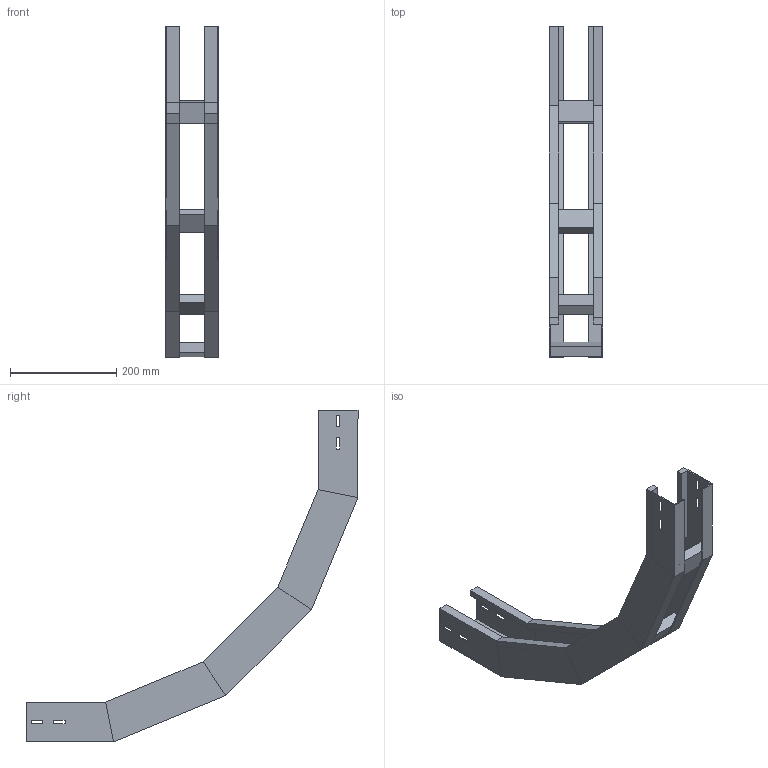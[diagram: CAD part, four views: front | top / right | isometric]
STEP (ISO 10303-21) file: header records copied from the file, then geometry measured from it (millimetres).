
FILE_DESCRIPTION (( 'STEP AP214' ), '1' );
FILE_NAME ('A2X30B5C100XX.step', '2025-03-20T10:24:32', ( '' ), ( '' ), 'SwSTEP 2.0', 'SolidWorks 2023', '' );
FILE_SCHEMA (( 'AUTOMOTIVE_DESIGN' ));
Length unit declared in the file: millimetre
Products named in the file (3): TRAVERSINO_100; LONGH.SALITA_90°_H75_R500; A2X30B5C100XX
Assembly tree (6 placements, depth 2):
  A2X30B5C100XX
    LONGH.SALITA_90°_H75_R500  x2
    TRAVERSINO_100  x4
Bounding box: 100 x 624.12 x 624.12 mm (x, y, z)
Volume: 1043170.9 mm3; surface area: 505923.8 mm2
Topology: 6 solids, 6 shells, 140 faces, 320 edges, 192 vertices
Faces by surface type: plane 140
Entity records: 1872 total; most frequent: CARTESIAN_POINT 309, ORIENTED_EDGE 296, DIRECTION 294, LINE 148, VECTOR 148, EDGE_CURVE 148, VERTEX_POINT 88, AXIS2_PLACEMENT_3D 73
